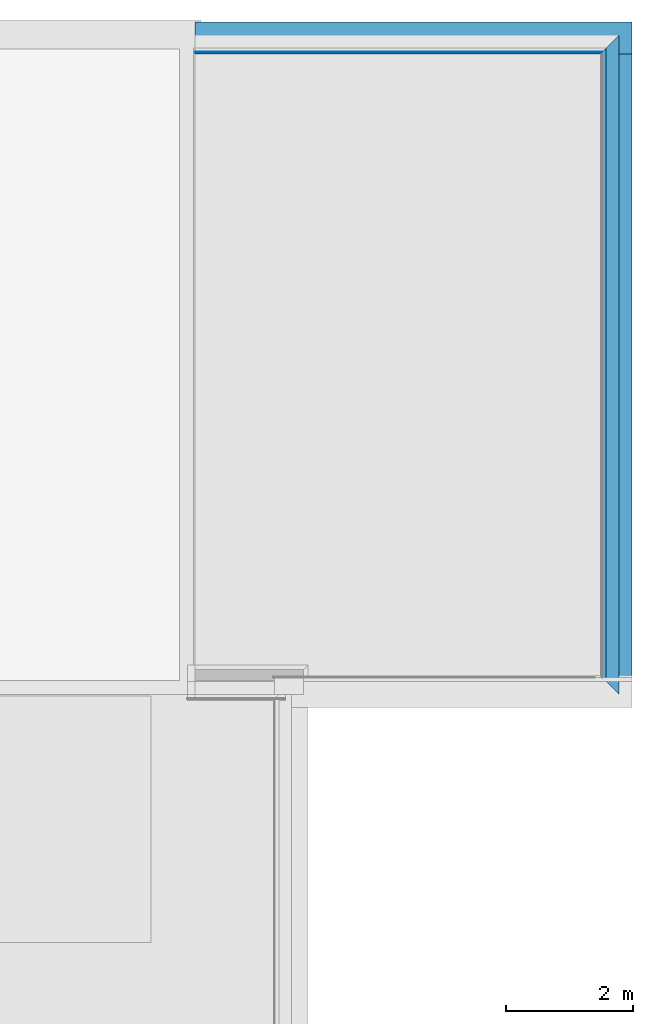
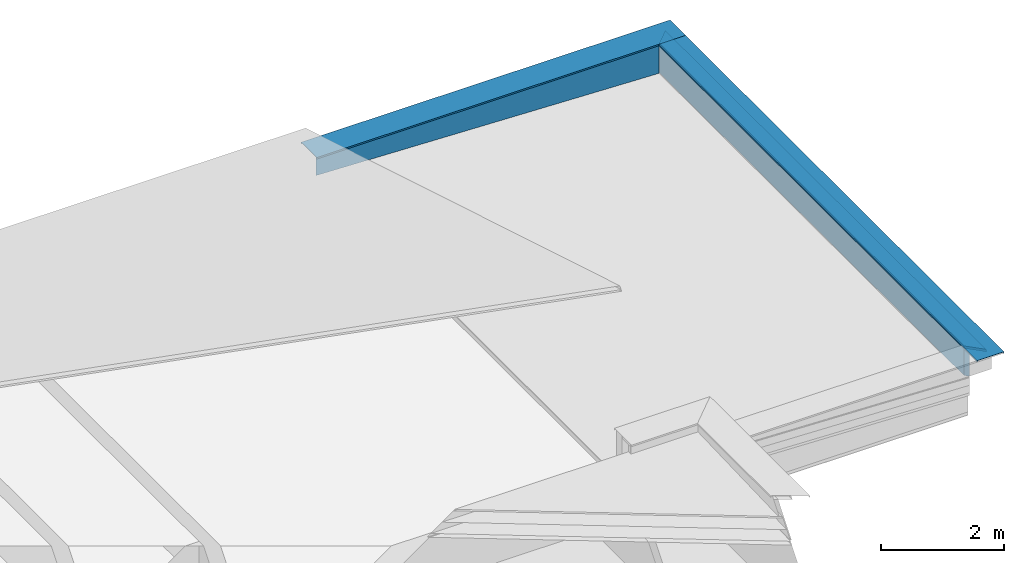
# One storey, part 12 of 13: 5 building element parts, 2 elements without a shape of their own.
"""IFC2X3 building model written with IfcOpenShell, lengths in metres."""

from ifc_helpers import new_model, entity, si_unit, converted_unit, derived_unit, money_unit, direction, frame, origin_with_axes, place, context, subcontext, project, spatial, polyline, outline, extrude, boolean, faceted_brep, material, type_object, element, aggregate, save


model = new_model("IFC2X3")

# Units and contexts
model_context = context("Model", 3, precision=1e-05, world=origin_with_axes(), true_north=direction((0.0, 1.0)))
body_context = subcontext(model_context, "Body", "Model", "MODEL_VIEW")
ifc_project = project(units=[si_unit("LENGTHUNIT", "METRE"), si_unit("AREAUNIT", "SQUARE_METRE"), si_unit("VOLUMEUNIT", "CUBIC_METRE"), converted_unit("PLANEANGLEUNIT", "DEGREE", entity("IfcPlaneAngleMeasure", 0.0174532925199), si_unit("PLANEANGLEUNIT", "RADIAN"), dimensions=[0, 0, 0, 0, 0, 0, 0]), money_unit("CHF"), converted_unit("TIMEUNIT", "Year", entity("IfcTimeMeasure", 31556926.0), si_unit("TIMEUNIT", "SECOND"), dimensions=[0, 0, 1, 0, 0, 0, 0]), si_unit("MASSUNIT", "GRAM", prefix="KILO"), si_unit("THERMODYNAMICTEMPERATUREUNIT", "DEGREE_CELSIUS"), si_unit("LUMINOUSINTENSITYUNIT", "LUMEN"), si_unit("ENERGYUNIT", "JOULE", prefix="MEGA"), derived_unit("THERMALCONDUCTANCEUNIT", [(si_unit("POWERUNIT", "WATT"), 1), (si_unit("LENGTHUNIT", "METRE"), -1), (si_unit("THERMODYNAMICTEMPERATUREUNIT", "KELVIN"), -1)]), derived_unit("SPECIFICHEATCAPACITYUNIT", [(si_unit("ENERGYUNIT", "JOULE"), 1), (si_unit("MASSUNIT", "GRAM", prefix="KILO"), -1), (si_unit("THERMODYNAMICTEMPERATUREUNIT", "KELVIN"), -1)]), derived_unit("MASSDENSITYUNIT", [(si_unit("MASSUNIT", "GRAM", prefix="KILO"), 1), (si_unit("VOLUMEUNIT", "CUBIC_METRE"), -1)])], contexts=[model_context])

# Site, building, storey
site_placement = place(None, origin_with_axes())
site = spatial("IfcSite", under=ifc_project, at=site_placement, Name="Site", CompositionType="ELEMENT")
building_placement = place(site_placement, origin_with_axes())
building = spatial("IfcBuilding", under=site, at=building_placement, Name="Bâtiment", CompositionType="ELEMENT")
storey_placement = place(building_placement, frame((0.0, 0.0, 3.0), z_axis=(0.0, 0.0, 1.0), x_axis=(1.0, 0.0, 0.0)))
storey = spatial("IfcBuildingStorey", under=building, at=storey_placement, Name="Toitures", CompositionType="ELEMENT", Elevation=3.0)

# Beam, building element parts
beam_type = type_object("IfcBeamType", Name="couvertine mur iso 505 x 590", PredefinedType="BEAM")
beam_1_placement = place(storey_placement, frame((32.3194697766, 25.2201256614, 0.97), z_axis=(0.0, 0.0, 1.0), x_axis=(0.0, -1.0, 0.0)))
beam_1 = element("IfcBeam", 1, at=beam_1_placement, inside=storey, type_object=beam_type, Name="POUTRE-001", ObjectType="BEAM")
ifc_material_1 = material(Name="Etanchéité")
building_element_part_1_placement = place(beam_1_placement, origin_with_axes())
building_element_part_1 = element("IfcBuildingElementPart", 2, at=building_element_part_1_placement, material=ifc_material_1, Name="Etanchéité", context=body_context, shape_type="CSG", body=[
    boolean("DIFFERENCE", boolean("DIFFERENCE", boolean("DIFFERENCE", boolean("DIFFERENCE", boolean("DIFFERENCE", boolean("DIFFERENCE", extrude(outline(polyline([(0.164999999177, -0.0549999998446), (0.164999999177, -0.589639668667), (0.174999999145, -0.589639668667), (0.174999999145, -0.005), (0.164999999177, -0.005), (0.164999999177, -0.0549999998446)])), frame((0.0, 6.91002, 0.0), z_axis=(0.0, -1.0, 0.0), x_axis=(1.0, 0.0, 0.0)), (0.0, 0.0, 1.0), 6.91002), faceted_brep([(0.164999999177, 0.0, -0.368167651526), (0.164999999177, 6.32777191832, -0.589639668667), (0.164999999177, 0.0, -0.589639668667), (0.174999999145, 6.32777191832, -0.589639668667), (0.174999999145, 0.0, -0.368167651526), (0.174999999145, 0.0, -0.589639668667)], [[[0, 1, 2]], [[3, 1, 0, 4]], [[1, 3, 5, 2]], [[4, 0, 2, 5]], [[3, 4, 5]]])), faceted_brep([(0.164999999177, 6.43500000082, -0.0549999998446), (0.164999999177, 6.43500000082, -0.005), (0.164999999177, 6.91002, -0.005), (0.164999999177, 6.91002, -0.0549999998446), (0.174999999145, 6.42500000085, -0.005), (0.164999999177, 6.43500000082, -0.589639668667), (0.174999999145, 6.42500000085, -0.589639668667), (0.174999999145, 6.91002, -0.005), (0.174999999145, 6.91002, -0.589639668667), (0.164999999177, 6.91002, -0.589639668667)], [[[0, 1, 2, 3]], [[4, 1, 0, 5, 6]], [[1, 4, 7, 2]], [[8, 9, 3, 2, 7]], [[5, 0, 3, 9]], [[6, 5, 9, 8]], [[4, 6, 8, 7]]])), faceted_brep([(-0.31, 6.91002, -0.03000000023), (-0.31, 6.91, -0.03000000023), (-0.31, 6.91, -1.56462309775e-09), (-0.31, 6.91002, -1.56462309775e-09), (-0.3049999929, 6.91002, -0.03000000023), (-0.3049999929, 6.9049999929, -0.03000000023), (0.194999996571, 6.40500000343, -0.03000000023), (0.194999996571, 6.40500000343, -1.56462309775e-09), (-0.3049999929, 6.9049999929, -0.0049999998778), (-0.1, 6.7, -0.005), (0.165, 6.435, -0.005), (0.175000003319, 6.42499999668, -0.0049999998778), (0.189999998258, 6.41000000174, -0.0049999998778), (0.189999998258, 6.41000000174, -0.03000000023), (0.194999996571, 6.91002, -1.56462309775e-09), (0.194999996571, 6.91002, -0.03000000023), (0.189999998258, 6.91002, -0.03000000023), (0.189999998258, 6.91002, -0.0049999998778), (0.175000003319, 6.91002, -0.0049999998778), (0.164999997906, 6.91002, -0.0049999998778), (-0.100000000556, 6.91002, -0.0049999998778), (-0.3049999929, 6.91002, -0.0049999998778)], [[[0, 1, 2, 3]], [[4, 5, 1, 0]], [[6, 7, 2, 1, 5, 8, 9, 10, 11, 12, 13]], [[3, 2, 7, 14]], [[0, 3, 14, 15, 16, 17, 18, 19, 20, 21, 4]], [[21, 8, 5, 4]], [[14, 7, 6, 15]], [[20, 9, 8, 21]], [[19, 10, 9, 20]], [[18, 11, 10, 19]], [[17, 12, 11, 18]], [[16, 13, 12, 17]], [[15, 6, 13, 16]]])), faceted_brep([(0.0999999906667, 0.0, -0.589639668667), (0.1, 0.0, -0.368167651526), (0.1, 6.32777191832, -0.589639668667), (0.164999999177, 0.0, -0.589639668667), (0.164999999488, 0.0, -0.368167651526), (0.164999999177, 6.32777191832, -0.589639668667)], [[[0, 1, 2]], [[3, 4, 1, 0]], [[4, 5, 2, 1]], [[0, 2, 5, 3]], [[3, 5, 4]]])), faceted_brep([(0.0999999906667, 6.91002, -0.589639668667), (0.0999999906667, 6.50000000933, -0.589639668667), (0.0999999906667, 6.50000000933, -0.0549999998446), (0.0999999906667, 6.91002, -0.0549999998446), (0.164999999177, 6.91002, -0.589639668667), (0.164999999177, 6.43500000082, -0.589639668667), (0.16499999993, 6.43500000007, -0.0549999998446), (0.164999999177, 6.91002, -0.0549999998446)], [[[0, 1, 2, 3]], [[4, 5, 1, 0]], [[5, 6, 2, 1]], [[3, 2, 6, 7]], [[7, 4, 0, 3]], [[7, 6, 5, 4]]])), faceted_brep([(-0.1, 6.91002, -0.055), (-0.1, 6.7, -0.055), (-0.1, 6.7, -0.005), (-0.1, 6.91002, -0.005), (0.0999999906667, 6.91002, -0.0549999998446), (0.0999999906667, 6.50000000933, -0.0549999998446), (0.165, 6.435, -0.005), (0.16499999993, 6.43500000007, -0.055), (0.165, 6.91002, -0.005), (0.165, 6.91002, -0.055)], [[[0, 1, 2, 3]], [[4, 5, 1, 0]], [[6, 2, 1, 5, 7]], [[3, 2, 6, 8]], [[4, 0, 3, 8, 9]], [[9, 7, 5, 4]], [[8, 6, 7, 9]]])),
])
ifc_material_2 = material(Name="Aluminium")
building_element_part_2_placement = place(beam_1_placement, origin_with_axes())
building_element_part_2 = element("IfcBuildingElementPart", 3, at=building_element_part_2_placement, material=ifc_material_2, Name="Aluminium", context=body_context, shape_type="CSG", body=[
    boolean("DIFFERENCE", boolean("DIFFERENCE", boolean("DIFFERENCE", boolean("DIFFERENCE", boolean("DIFFERENCE", boolean("DIFFERENCE", extrude(outline(polyline([(0.194999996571, -1.56462309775e-09), (-0.31, -1.56462309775e-09), (-0.31, -0.03000000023), (-0.3049999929, -0.03000000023), (-0.3049999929, -0.0049999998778), (-0.100000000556, -0.0049999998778), (0.164999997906, -0.0049999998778), (0.175000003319, -0.0049999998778), (0.189999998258, -0.0049999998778), (0.189999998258, -0.03000000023), (0.194999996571, -0.03000000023), (0.194999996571, -1.56462309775e-09)])), frame((0.0, 6.91002, 0.0), z_axis=(0.0, -1.0, 0.0), x_axis=(1.0, 0.0, 0.0)), (0.0, 0.0, 1.0), 6.91002), faceted_brep([(0.164999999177, 0.0, -0.368167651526), (0.164999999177, 6.32777191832, -0.589639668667), (0.164999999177, 0.0, -0.589639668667), (0.174999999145, 6.32777191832, -0.589639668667), (0.174999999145, 0.0, -0.368167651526), (0.174999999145, 0.0, -0.589639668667)], [[[0, 1, 2]], [[3, 1, 0, 4]], [[1, 3, 5, 2]], [[4, 0, 2, 5]], [[3, 4, 5]]])), faceted_brep([(0.164999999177, 6.43500000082, -0.0549999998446), (0.164999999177, 6.43500000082, -0.005), (0.164999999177, 6.91002, -0.005), (0.164999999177, 6.91002, -0.0549999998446), (0.174999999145, 6.42500000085, -0.005), (0.164999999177, 6.43500000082, -0.589639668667), (0.174999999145, 6.42500000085, -0.589639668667), (0.174999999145, 6.91002, -0.005), (0.174999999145, 6.91002, -0.589639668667), (0.164999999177, 6.91002, -0.589639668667)], [[[0, 1, 2, 3]], [[4, 1, 0, 5, 6]], [[1, 4, 7, 2]], [[8, 9, 3, 2, 7]], [[5, 0, 3, 9]], [[6, 5, 9, 8]], [[4, 6, 8, 7]]])), faceted_brep([(-0.31, 6.91002, -0.03000000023), (-0.31, 6.91, -0.03000000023), (-0.31, 6.91, -1.56462309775e-09), (-0.31, 6.91002, -1.56462309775e-09), (-0.3049999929, 6.91002, -0.03000000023), (-0.3049999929, 6.9049999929, -0.03000000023), (0.194999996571, 6.40500000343, -0.03000000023), (0.194999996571, 6.40500000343, -1.56462309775e-09), (-0.3049999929, 6.9049999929, -0.0049999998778), (-0.1, 6.7, -0.005), (0.165, 6.435, -0.005), (0.175000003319, 6.42499999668, -0.0049999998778), (0.189999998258, 6.41000000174, -0.0049999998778), (0.189999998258, 6.41000000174, -0.03000000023), (0.194999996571, 6.91002, -1.56462309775e-09), (0.194999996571, 6.91002, -0.03000000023), (0.189999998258, 6.91002, -0.03000000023), (0.189999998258, 6.91002, -0.0049999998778), (0.175000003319, 6.91002, -0.0049999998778), (0.164999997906, 6.91002, -0.0049999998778), (-0.100000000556, 6.91002, -0.0049999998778), (-0.3049999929, 6.91002, -0.0049999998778)], [[[0, 1, 2, 3]], [[4, 5, 1, 0]], [[6, 7, 2, 1, 5, 8, 9, 10, 11, 12, 13]], [[3, 2, 7, 14]], [[0, 3, 14, 15, 16, 17, 18, 19, 20, 21, 4]], [[21, 8, 5, 4]], [[14, 7, 6, 15]], [[20, 9, 8, 21]], [[19, 10, 9, 20]], [[18, 11, 10, 19]], [[17, 12, 11, 18]], [[16, 13, 12, 17]], [[15, 6, 13, 16]]])), faceted_brep([(0.0999999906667, 0.0, -0.589639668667), (0.1, 0.0, -0.368167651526), (0.1, 6.32777191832, -0.589639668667), (0.164999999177, 0.0, -0.589639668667), (0.164999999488, 0.0, -0.368167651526), (0.164999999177, 6.32777191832, -0.589639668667)], [[[0, 1, 2]], [[3, 4, 1, 0]], [[4, 5, 2, 1]], [[0, 2, 5, 3]], [[3, 5, 4]]])), faceted_brep([(0.0999999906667, 6.91002, -0.589639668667), (0.0999999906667, 6.50000000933, -0.589639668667), (0.0999999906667, 6.50000000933, -0.0549999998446), (0.0999999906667, 6.91002, -0.0549999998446), (0.164999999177, 6.91002, -0.589639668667), (0.164999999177, 6.43500000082, -0.589639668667), (0.16499999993, 6.43500000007, -0.0549999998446), (0.164999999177, 6.91002, -0.0549999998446)], [[[0, 1, 2, 3]], [[4, 5, 1, 0]], [[5, 6, 2, 1]], [[3, 2, 6, 7]], [[7, 4, 0, 3]], [[7, 6, 5, 4]]])), faceted_brep([(-0.1, 6.91002, -0.055), (-0.1, 6.7, -0.055), (-0.1, 6.7, -0.005), (-0.1, 6.91002, -0.005), (0.0999999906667, 6.91002, -0.0549999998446), (0.0999999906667, 6.50000000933, -0.0549999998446), (0.165, 6.435, -0.005), (0.16499999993, 6.43500000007, -0.055), (0.165, 6.91002, -0.005), (0.165, 6.91002, -0.055)], [[[0, 1, 2, 3]], [[4, 5, 1, 0]], [[6, 2, 1, 5, 7]], [[3, 2, 6, 8]], [[4, 0, 3, 8, 9]], [[9, 7, 5, 4]], [[8, 6, 7, 9]]])),
])
aggregate(beam_1, [building_element_part_1, building_element_part_2])

beam_2_placement = place(storey_placement, frame((38.9194697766, 25.2201256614, 0.97), z_axis=(0.0, 0.0, 1.0), x_axis=(-1.0, 0.0, 0.0)))
beam_2 = element("IfcBeam", 4, at=beam_2_placement, inside=storey, type_object=beam_type, Name="POUTRE-002", ObjectType="BEAM")
building_element_part_3_placement = place(beam_2_placement, origin_with_axes())
building_element_part_3 = element("IfcBuildingElementPart", 5, at=building_element_part_3_placement, material=ifc_material_2, Name="Aluminium", context=body_context, shape_type="CSG", body=[
    boolean("DIFFERENCE", boolean("DIFFERENCE", boolean("DIFFERENCE", boolean("DIFFERENCE", boolean("DIFFERENCE", boolean("DIFFERENCE", boolean("DIFFERENCE", boolean("DIFFERENCE", extrude(outline(polyline([(0.194999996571, -1.56462309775e-09), (-0.31, -1.56462309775e-09), (-0.31, -0.03000000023), (-0.3049999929, -0.03000000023), (-0.3049999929, -0.0049999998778), (-0.100000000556, -0.0049999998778), (0.164999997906, -0.0049999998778), (0.175000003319, -0.0049999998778), (0.189999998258, -0.0049999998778), (0.189999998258, -0.03000000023), (0.194999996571, -0.03000000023), (0.194999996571, -1.56462309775e-09)])), frame((0.0, 10.52702, 0.0), z_axis=(0.0, -1.0, 0.0), x_axis=(1.0, 0.0, 0.0)), (0.0, 0.0, 1.0), 10.83704), faceted_brep([(0.164999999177, 10.0520000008, -0.0549999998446), (0.164999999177, 10.0520000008, -0.005), (0.164999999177, 10.52702, -0.005), (0.164999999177, 10.52702, -0.0549999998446), (0.174999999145, 10.0420000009, -0.005), (0.164999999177, 10.0520000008, -0.589639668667), (0.174999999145, 10.0420000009, -0.589639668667), (0.174999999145, 10.52702, -0.005), (0.174999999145, 10.52702, -0.589639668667), (0.164999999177, 10.52702, -0.589639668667)], [[[0, 1, 2, 3]], [[4, 1, 0, 5, 6]], [[1, 4, 7, 2]], [[8, 9, 3, 2, 7]], [[5, 0, 3, 9]], [[6, 5, 9, 8]], [[4, 6, 8, 7]]])), faceted_brep([(0.174999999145, 0.174999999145, -0.005), (0.164999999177, 0.164999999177, -0.005), (0.164999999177, -0.31002, -0.005), (0.174999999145, -0.31002, -0.005), (0.164999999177, 0.164999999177, -0.0549999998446), (0.174999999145, 0.174999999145, -0.589639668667), (0.164999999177, 0.164999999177, -0.589639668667), (0.164999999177, -0.31002, -0.0549999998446), (0.164999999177, -0.31002, -0.589639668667), (0.174999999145, -0.31002, -0.589639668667)], [[[0, 1, 2, 3]], [[4, 1, 0, 5, 6]], [[1, 4, 7, 2]], [[3, 2, 7, 8, 9]], [[5, 0, 3, 9]], [[6, 5, 9, 8]], [[4, 6, 8, 7]]])), faceted_brep([(-0.31, 10.52702, -0.03000000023), (-0.31, 10.527, -0.03000000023), (-0.31, 10.527, -1.56462309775e-09), (-0.31, 10.52702, -1.56462309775e-09), (-0.3049999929, 10.52702, -0.03000000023), (-0.3049999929, 10.5219999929, -0.03000000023), (0.194999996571, 10.0220000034, -0.03000000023), (0.194999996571, 10.0220000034, -1.56462309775e-09), (-0.3049999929, 10.5219999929, -0.0049999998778), (-0.1, 10.317, -0.005), (0.165, 10.052, -0.005), (0.175000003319, 10.0419999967, -0.0049999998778), (0.189999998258, 10.0270000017, -0.0049999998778), (0.189999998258, 10.0270000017, -0.03000000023), (0.194999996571, 10.52702, -1.56462309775e-09), (0.194999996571, 10.52702, -0.03000000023), (0.189999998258, 10.52702, -0.03000000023), (0.189999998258, 10.52702, -0.0049999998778), (0.175000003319, 10.52702, -0.0049999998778), (0.164999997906, 10.52702, -0.0049999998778), (-0.100000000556, 10.52702, -0.0049999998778), (-0.3049999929, 10.52702, -0.0049999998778)], [[[0, 1, 2, 3]], [[4, 5, 1, 0]], [[6, 7, 2, 1, 5, 8, 9, 10, 11, 12, 13]], [[3, 2, 7, 14]], [[0, 3, 14, 15, 16, 17, 18, 19, 20, 21, 4]], [[21, 8, 5, 4]], [[14, 7, 6, 15]], [[20, 9, 8, 21]], [[19, 10, 9, 20]], [[18, 11, 10, 19]], [[17, 12, 11, 18]], [[16, 13, 12, 17]], [[15, 6, 13, 16]]])), faceted_brep([(0.194999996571, -0.31002, -1.56462309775e-09), (0.194999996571, 0.194999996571, -1.56462309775e-09), (-0.31, -0.31, -1.56462309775e-09), (-0.31, -0.31002, -1.56462309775e-09), (0.194999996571, -0.31002, -0.03000000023), (0.194999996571, 0.194999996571, -0.03000000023), (-0.3049999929, -0.3049999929, -0.03000000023), (-0.31, -0.31, -0.03000000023), (0.189999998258, 0.189999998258, -0.03000000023), (0.189999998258, 0.189999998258, -0.0049999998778), (0.175000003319, 0.175000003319, -0.0049999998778), (0.165, 0.165, -0.005), (-0.1, -0.1, -0.005), (-0.3049999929, -0.3049999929, -0.0049999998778), (-0.31, -0.31002, -0.03000000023), (0.189999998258, -0.31002, -0.03000000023), (-0.3049999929, -0.31002, -0.03000000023), (-0.3049999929, -0.31002, -0.0049999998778), (-0.100000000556, -0.31002, -0.0049999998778), (0.164999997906, -0.31002, -0.0049999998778), (0.175000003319, -0.31002, -0.0049999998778), (0.189999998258, -0.31002, -0.0049999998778)], [[[0, 1, 2, 3]], [[4, 5, 1, 0]], [[6, 7, 2, 1, 5, 8, 9, 10, 11, 12, 13]], [[3, 2, 7, 14]], [[15, 4, 0, 3, 14, 16, 17, 18, 19, 20, 21]], [[15, 8, 5, 4]], [[14, 7, 6, 16]], [[21, 9, 8, 15]], [[20, 10, 9, 21]], [[19, 11, 10, 20]], [[18, 12, 11, 19]], [[17, 13, 12, 18]], [[16, 6, 13, 17]]])), faceted_brep([(0.0999999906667, 10.52702, -0.589639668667), (0.0999999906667, 10.1170000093, -0.589639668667), (0.0999999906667, 10.1170000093, -0.0549999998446), (0.0999999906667, 10.52702, -0.0549999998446), (0.164999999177, 10.52702, -0.589639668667), (0.164999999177, 10.0520000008, -0.589639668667), (0.16499999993, 10.0520000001, -0.0549999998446), (0.164999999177, 10.52702, -0.0549999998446)], [[[0, 1, 2, 3]], [[4, 5, 1, 0]], [[5, 6, 2, 1]], [[3, 2, 6, 7]], [[7, 4, 0, 3]], [[7, 6, 5, 4]]])), faceted_brep([(0.164999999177, -0.31002, -0.0549999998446), (0.16499999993, 0.16499999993, -0.0549999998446), (0.0999999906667, 0.0999999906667, -0.0549999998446), (0.0999999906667, -0.31002, -0.0549999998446), (0.164999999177, -0.31002, -0.589639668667), (0.164999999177, 0.164999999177, -0.589639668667), (0.0999999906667, 0.0999999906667, -0.589639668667), (0.0999999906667, -0.31002, -0.589639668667)], [[[0, 1, 2, 3]], [[4, 5, 1, 0]], [[5, 6, 2, 1]], [[3, 2, 6, 7]], [[0, 3, 7, 4]], [[7, 6, 5, 4]]])), faceted_brep([(-0.1, 10.52702, -0.055), (-0.1, 10.317, -0.055), (-0.1, 10.317, -0.005), (-0.1, 10.52702, -0.005), (0.0999999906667, 10.52702, -0.0549999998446), (0.0999999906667, 10.1170000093, -0.0549999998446), (0.165, 10.052, -0.005), (0.16499999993, 10.0520000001, -0.055), (0.165, 10.52702, -0.005), (0.165, 10.52702, -0.055)], [[[0, 1, 2, 3]], [[4, 5, 1, 0]], [[6, 2, 1, 5, 7]], [[3, 2, 6, 8]], [[4, 0, 3, 8, 9]], [[9, 7, 5, 4]], [[8, 6, 7, 9]]])), faceted_brep([(0.165, -0.31002, -0.005), (0.165, 0.165, -0.005), (-0.1, -0.1, -0.005), (-0.1, -0.31002, -0.005), (0.165, -0.31002, -0.055), (0.16499999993, 0.16499999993, -0.055), (0.0999999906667, 0.0999999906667, -0.0549999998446), (-0.1, -0.1, -0.055), (-0.1, -0.31002, -0.055), (0.0999999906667, -0.31002, -0.0549999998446)], [[[0, 1, 2, 3]], [[4, 5, 1, 0]], [[6, 7, 2, 1, 5]], [[3, 2, 7, 8]], [[4, 0, 3, 8, 9]], [[9, 6, 5, 4]], [[8, 7, 6, 9]]])),
])
ifc_material_3 = material(Name="Isolation - Polyuréthane (extérieur)")
building_element_part_4_placement = place(beam_2_placement, origin_with_axes())
building_element_part_4 = element("IfcBuildingElementPart", 6, at=building_element_part_4_placement, material=ifc_material_3, Name="Isolation - Polyuréthane (extérieur)", context=body_context, shape_type="CSG", body=[
    boolean("DIFFERENCE", boolean("DIFFERENCE", boolean("DIFFERENCE", boolean("DIFFERENCE", boolean("DIFFERENCE", boolean("DIFFERENCE", boolean("DIFFERENCE", boolean("DIFFERENCE", extrude(outline(polyline([(0.0999999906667, -0.589639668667), (0.164999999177, -0.589639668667), (0.164999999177, -0.0549999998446), (0.0999999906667, -0.0549999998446), (0.0999999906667, -0.589639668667)])), frame((0.0, 10.52702, 0.0), z_axis=(0.0, -1.0, 0.0), x_axis=(1.0, 0.0, 0.0)), (0.0, 0.0, 1.0), 10.83704), faceted_brep([(0.164999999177, 10.0520000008, -0.0549999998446), (0.164999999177, 10.0520000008, -0.005), (0.164999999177, 10.52702, -0.005), (0.164999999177, 10.52702, -0.0549999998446), (0.174999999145, 10.0420000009, -0.005), (0.164999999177, 10.0520000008, -0.589639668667), (0.174999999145, 10.0420000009, -0.589639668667), (0.174999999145, 10.52702, -0.005), (0.174999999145, 10.52702, -0.589639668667), (0.164999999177, 10.52702, -0.589639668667)], [[[0, 1, 2, 3]], [[4, 1, 0, 5, 6]], [[1, 4, 7, 2]], [[8, 9, 3, 2, 7]], [[5, 0, 3, 9]], [[6, 5, 9, 8]], [[4, 6, 8, 7]]])), faceted_brep([(0.174999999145, 0.174999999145, -0.005), (0.164999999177, 0.164999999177, -0.005), (0.164999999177, -0.31002, -0.005), (0.174999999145, -0.31002, -0.005), (0.164999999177, 0.164999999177, -0.0549999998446), (0.174999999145, 0.174999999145, -0.589639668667), (0.164999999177, 0.164999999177, -0.589639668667), (0.164999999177, -0.31002, -0.0549999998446), (0.164999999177, -0.31002, -0.589639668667), (0.174999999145, -0.31002, -0.589639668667)], [[[0, 1, 2, 3]], [[4, 1, 0, 5, 6]], [[1, 4, 7, 2]], [[3, 2, 7, 8, 9]], [[5, 0, 3, 9]], [[6, 5, 9, 8]], [[4, 6, 8, 7]]])), faceted_brep([(-0.31, 10.52702, -0.03000000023), (-0.31, 10.527, -0.03000000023), (-0.31, 10.527, -1.56462309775e-09), (-0.31, 10.52702, -1.56462309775e-09), (-0.3049999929, 10.52702, -0.03000000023), (-0.3049999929, 10.5219999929, -0.03000000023), (0.194999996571, 10.0220000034, -0.03000000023), (0.194999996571, 10.0220000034, -1.56462309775e-09), (-0.3049999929, 10.5219999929, -0.0049999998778), (-0.1, 10.317, -0.005), (0.165, 10.052, -0.005), (0.175000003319, 10.0419999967, -0.0049999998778), (0.189999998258, 10.0270000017, -0.0049999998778), (0.189999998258, 10.0270000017, -0.03000000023), (0.194999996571, 10.52702, -1.56462309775e-09), (0.194999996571, 10.52702, -0.03000000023), (0.189999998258, 10.52702, -0.03000000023), (0.189999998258, 10.52702, -0.0049999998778), (0.175000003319, 10.52702, -0.0049999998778), (0.164999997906, 10.52702, -0.0049999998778), (-0.100000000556, 10.52702, -0.0049999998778), (-0.3049999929, 10.52702, -0.0049999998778)], [[[0, 1, 2, 3]], [[4, 5, 1, 0]], [[6, 7, 2, 1, 5, 8, 9, 10, 11, 12, 13]], [[3, 2, 7, 14]], [[0, 3, 14, 15, 16, 17, 18, 19, 20, 21, 4]], [[21, 8, 5, 4]], [[14, 7, 6, 15]], [[20, 9, 8, 21]], [[19, 10, 9, 20]], [[18, 11, 10, 19]], [[17, 12, 11, 18]], [[16, 13, 12, 17]], [[15, 6, 13, 16]]])), faceted_brep([(0.194999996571, -0.31002, -1.56462309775e-09), (0.194999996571, 0.194999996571, -1.56462309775e-09), (-0.31, -0.31, -1.56462309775e-09), (-0.31, -0.31002, -1.56462309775e-09), (0.194999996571, -0.31002, -0.03000000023), (0.194999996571, 0.194999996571, -0.03000000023), (-0.3049999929, -0.3049999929, -0.03000000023), (-0.31, -0.31, -0.03000000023), (0.189999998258, 0.189999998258, -0.03000000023), (0.189999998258, 0.189999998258, -0.0049999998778), (0.175000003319, 0.175000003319, -0.0049999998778), (0.165, 0.165, -0.005), (-0.1, -0.1, -0.005), (-0.3049999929, -0.3049999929, -0.0049999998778), (-0.31, -0.31002, -0.03000000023), (0.189999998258, -0.31002, -0.03000000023), (-0.3049999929, -0.31002, -0.03000000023), (-0.3049999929, -0.31002, -0.0049999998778), (-0.100000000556, -0.31002, -0.0049999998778), (0.164999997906, -0.31002, -0.0049999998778), (0.175000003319, -0.31002, -0.0049999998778), (0.189999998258, -0.31002, -0.0049999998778)], [[[0, 1, 2, 3]], [[4, 5, 1, 0]], [[6, 7, 2, 1, 5, 8, 9, 10, 11, 12, 13]], [[3, 2, 7, 14]], [[15, 4, 0, 3, 14, 16, 17, 18, 19, 20, 21]], [[15, 8, 5, 4]], [[14, 7, 6, 16]], [[21, 9, 8, 15]], [[20, 10, 9, 21]], [[19, 11, 10, 20]], [[18, 12, 11, 19]], [[17, 13, 12, 18]], [[16, 6, 13, 17]]])), faceted_brep([(0.0999999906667, 10.52702, -0.589639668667), (0.0999999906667, 10.1170000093, -0.589639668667), (0.0999999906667, 10.1170000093, -0.0549999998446), (0.0999999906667, 10.52702, -0.0549999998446), (0.164999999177, 10.52702, -0.589639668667), (0.164999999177, 10.0520000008, -0.589639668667), (0.16499999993, 10.0520000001, -0.0549999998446), (0.164999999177, 10.52702, -0.0549999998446)], [[[0, 1, 2, 3]], [[4, 5, 1, 0]], [[5, 6, 2, 1]], [[3, 2, 6, 7]], [[7, 4, 0, 3]], [[7, 6, 5, 4]]])), faceted_brep([(0.164999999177, -0.31002, -0.0549999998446), (0.16499999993, 0.16499999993, -0.0549999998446), (0.0999999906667, 0.0999999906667, -0.0549999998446), (0.0999999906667, -0.31002, -0.0549999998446), (0.164999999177, -0.31002, -0.589639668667), (0.164999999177, 0.164999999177, -0.589639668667), (0.0999999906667, 0.0999999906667, -0.589639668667), (0.0999999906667, -0.31002, -0.589639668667)], [[[0, 1, 2, 3]], [[4, 5, 1, 0]], [[5, 6, 2, 1]], [[3, 2, 6, 7]], [[0, 3, 7, 4]], [[7, 6, 5, 4]]])), faceted_brep([(-0.1, 10.52702, -0.055), (-0.1, 10.317, -0.055), (-0.1, 10.317, -0.005), (-0.1, 10.52702, -0.005), (0.0999999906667, 10.52702, -0.0549999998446), (0.0999999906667, 10.1170000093, -0.0549999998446), (0.165, 10.052, -0.005), (0.16499999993, 10.0520000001, -0.055), (0.165, 10.52702, -0.005), (0.165, 10.52702, -0.055)], [[[0, 1, 2, 3]], [[4, 5, 1, 0]], [[6, 2, 1, 5, 7]], [[3, 2, 6, 8]], [[4, 0, 3, 8, 9]], [[9, 7, 5, 4]], [[8, 6, 7, 9]]])), faceted_brep([(0.165, -0.31002, -0.005), (0.165, 0.165, -0.005), (-0.1, -0.1, -0.005), (-0.1, -0.31002, -0.005), (0.165, -0.31002, -0.055), (0.16499999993, 0.16499999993, -0.055), (0.0999999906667, 0.0999999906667, -0.0549999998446), (-0.1, -0.1, -0.055), (-0.1, -0.31002, -0.055), (0.0999999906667, -0.31002, -0.0549999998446)], [[[0, 1, 2, 3]], [[4, 5, 1, 0]], [[6, 7, 2, 1, 5]], [[3, 2, 7, 8]], [[4, 0, 3, 8, 9]], [[9, 6, 5, 4]], [[8, 7, 6, 9]]])),
])
building_element_part_5_placement = place(beam_2_placement, origin_with_axes())
building_element_part_5 = element("IfcBuildingElementPart", 7, at=building_element_part_5_placement, material=ifc_material_3, Name="Isolation - Polyuréthane (extérieur)", context=body_context, shape_type="CSG", body=[
    boolean("DIFFERENCE", boolean("DIFFERENCE", boolean("DIFFERENCE", boolean("DIFFERENCE", boolean("DIFFERENCE", boolean("DIFFERENCE", boolean("DIFFERENCE", boolean("DIFFERENCE", extrude(outline(polyline([(-0.1, -0.005), (-0.1, -0.055), (0.0999999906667, -0.0549999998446), (0.165, -0.055), (0.165, -0.005), (-0.1, -0.005)])), frame((0.0, 10.52702, 0.0), z_axis=(0.0, -1.0, 0.0), x_axis=(1.0, 0.0, 0.0)), (0.0, 0.0, 1.0), 10.83704), faceted_brep([(0.164999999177, 10.0520000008, -0.0549999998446), (0.164999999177, 10.0520000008, -0.005), (0.164999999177, 10.52702, -0.005), (0.164999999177, 10.52702, -0.0549999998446), (0.174999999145, 10.0420000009, -0.005), (0.164999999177, 10.0520000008, -0.589639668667), (0.174999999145, 10.0420000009, -0.589639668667), (0.174999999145, 10.52702, -0.005), (0.174999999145, 10.52702, -0.589639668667), (0.164999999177, 10.52702, -0.589639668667)], [[[0, 1, 2, 3]], [[4, 1, 0, 5, 6]], [[1, 4, 7, 2]], [[8, 9, 3, 2, 7]], [[5, 0, 3, 9]], [[6, 5, 9, 8]], [[4, 6, 8, 7]]])), faceted_brep([(0.174999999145, 0.174999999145, -0.005), (0.164999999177, 0.164999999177, -0.005), (0.164999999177, -0.31002, -0.005), (0.174999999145, -0.31002, -0.005), (0.164999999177, 0.164999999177, -0.0549999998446), (0.174999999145, 0.174999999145, -0.589639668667), (0.164999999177, 0.164999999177, -0.589639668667), (0.164999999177, -0.31002, -0.0549999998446), (0.164999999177, -0.31002, -0.589639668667), (0.174999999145, -0.31002, -0.589639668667)], [[[0, 1, 2, 3]], [[4, 1, 0, 5, 6]], [[1, 4, 7, 2]], [[3, 2, 7, 8, 9]], [[5, 0, 3, 9]], [[6, 5, 9, 8]], [[4, 6, 8, 7]]])), faceted_brep([(-0.31, 10.52702, -0.03000000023), (-0.31, 10.527, -0.03000000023), (-0.31, 10.527, -1.56462309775e-09), (-0.31, 10.52702, -1.56462309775e-09), (-0.3049999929, 10.52702, -0.03000000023), (-0.3049999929, 10.5219999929, -0.03000000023), (0.194999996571, 10.0220000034, -0.03000000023), (0.194999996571, 10.0220000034, -1.56462309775e-09), (-0.3049999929, 10.5219999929, -0.0049999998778), (-0.1, 10.317, -0.005), (0.165, 10.052, -0.005), (0.175000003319, 10.0419999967, -0.0049999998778), (0.189999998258, 10.0270000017, -0.0049999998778), (0.189999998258, 10.0270000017, -0.03000000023), (0.194999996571, 10.52702, -1.56462309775e-09), (0.194999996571, 10.52702, -0.03000000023), (0.189999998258, 10.52702, -0.03000000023), (0.189999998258, 10.52702, -0.0049999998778), (0.175000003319, 10.52702, -0.0049999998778), (0.164999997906, 10.52702, -0.0049999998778), (-0.100000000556, 10.52702, -0.0049999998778), (-0.3049999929, 10.52702, -0.0049999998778)], [[[0, 1, 2, 3]], [[4, 5, 1, 0]], [[6, 7, 2, 1, 5, 8, 9, 10, 11, 12, 13]], [[3, 2, 7, 14]], [[0, 3, 14, 15, 16, 17, 18, 19, 20, 21, 4]], [[21, 8, 5, 4]], [[14, 7, 6, 15]], [[20, 9, 8, 21]], [[19, 10, 9, 20]], [[18, 11, 10, 19]], [[17, 12, 11, 18]], [[16, 13, 12, 17]], [[15, 6, 13, 16]]])), faceted_brep([(0.194999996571, -0.31002, -1.56462309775e-09), (0.194999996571, 0.194999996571, -1.56462309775e-09), (-0.31, -0.31, -1.56462309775e-09), (-0.31, -0.31002, -1.56462309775e-09), (0.194999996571, -0.31002, -0.03000000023), (0.194999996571, 0.194999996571, -0.03000000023), (-0.3049999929, -0.3049999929, -0.03000000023), (-0.31, -0.31, -0.03000000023), (0.189999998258, 0.189999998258, -0.03000000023), (0.189999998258, 0.189999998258, -0.0049999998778), (0.175000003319, 0.175000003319, -0.0049999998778), (0.165, 0.165, -0.005), (-0.1, -0.1, -0.005), (-0.3049999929, -0.3049999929, -0.0049999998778), (-0.31, -0.31002, -0.03000000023), (0.189999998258, -0.31002, -0.03000000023), (-0.3049999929, -0.31002, -0.03000000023), (-0.3049999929, -0.31002, -0.0049999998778), (-0.100000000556, -0.31002, -0.0049999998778), (0.164999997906, -0.31002, -0.0049999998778), (0.175000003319, -0.31002, -0.0049999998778), (0.189999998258, -0.31002, -0.0049999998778)], [[[0, 1, 2, 3]], [[4, 5, 1, 0]], [[6, 7, 2, 1, 5, 8, 9, 10, 11, 12, 13]], [[3, 2, 7, 14]], [[15, 4, 0, 3, 14, 16, 17, 18, 19, 20, 21]], [[15, 8, 5, 4]], [[14, 7, 6, 16]], [[21, 9, 8, 15]], [[20, 10, 9, 21]], [[19, 11, 10, 20]], [[18, 12, 11, 19]], [[17, 13, 12, 18]], [[16, 6, 13, 17]]])), faceted_brep([(0.0999999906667, 10.52702, -0.589639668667), (0.0999999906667, 10.1170000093, -0.589639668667), (0.0999999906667, 10.1170000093, -0.0549999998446), (0.0999999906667, 10.52702, -0.0549999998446), (0.164999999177, 10.52702, -0.589639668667), (0.164999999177, 10.0520000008, -0.589639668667), (0.16499999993, 10.0520000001, -0.0549999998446), (0.164999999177, 10.52702, -0.0549999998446)], [[[0, 1, 2, 3]], [[4, 5, 1, 0]], [[5, 6, 2, 1]], [[3, 2, 6, 7]], [[7, 4, 0, 3]], [[7, 6, 5, 4]]])), faceted_brep([(0.164999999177, -0.31002, -0.0549999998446), (0.16499999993, 0.16499999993, -0.0549999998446), (0.0999999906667, 0.0999999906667, -0.0549999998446), (0.0999999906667, -0.31002, -0.0549999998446), (0.164999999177, -0.31002, -0.589639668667), (0.164999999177, 0.164999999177, -0.589639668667), (0.0999999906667, 0.0999999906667, -0.589639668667), (0.0999999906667, -0.31002, -0.589639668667)], [[[0, 1, 2, 3]], [[4, 5, 1, 0]], [[5, 6, 2, 1]], [[3, 2, 6, 7]], [[0, 3, 7, 4]], [[7, 6, 5, 4]]])), faceted_brep([(-0.1, 10.52702, -0.055), (-0.1, 10.317, -0.055), (-0.1, 10.317, -0.005), (-0.1, 10.52702, -0.005), (0.0999999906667, 10.52702, -0.0549999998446), (0.0999999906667, 10.1170000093, -0.0549999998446), (0.165, 10.052, -0.005), (0.16499999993, 10.0520000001, -0.055), (0.165, 10.52702, -0.005), (0.165, 10.52702, -0.055)], [[[0, 1, 2, 3]], [[4, 5, 1, 0]], [[6, 2, 1, 5, 7]], [[3, 2, 6, 8]], [[4, 0, 3, 8, 9]], [[9, 7, 5, 4]], [[8, 6, 7, 9]]])), faceted_brep([(0.165, -0.31002, -0.005), (0.165, 0.165, -0.005), (-0.1, -0.1, -0.005), (-0.1, -0.31002, -0.005), (0.165, -0.31002, -0.055), (0.16499999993, 0.16499999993, -0.055), (0.0999999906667, 0.0999999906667, -0.0549999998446), (-0.1, -0.1, -0.055), (-0.1, -0.31002, -0.055), (0.0999999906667, -0.31002, -0.0549999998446)], [[[0, 1, 2, 3]], [[4, 5, 1, 0]], [[6, 7, 2, 1, 5]], [[3, 2, 7, 8]], [[4, 0, 3, 8, 9]], [[9, 6, 5, 4]], [[8, 7, 6, 9]]])),
])
aggregate(beam_2, [building_element_part_3, building_element_part_4, building_element_part_5])

save(model, "model.ifc")
